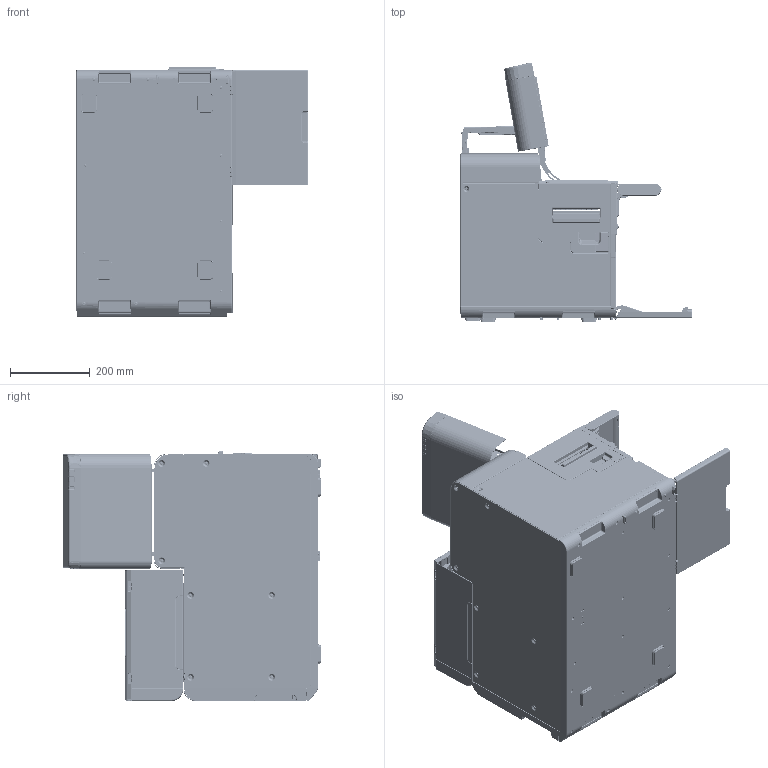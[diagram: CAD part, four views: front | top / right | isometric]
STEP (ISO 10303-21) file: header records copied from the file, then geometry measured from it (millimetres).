
FILE_DESCRIPTION((''),'2;1');
FILE_NAME('DEL-CW-C8000_OPEN_250131','2025-01-31T16:04:19',('5011256'),(''),'CREO PARAMETRIC BY PTC INC, 2021184','CREO PARAMETRIC BY PTC INC, 2021184','');
FILE_SCHEMA(('AUTOMOTIVE_DESIGN { 1 0 10303 214 1 1 1 1 }'));
Products named in the file (1): DEL-CW-C8000_OPEN_250131
Bounding box: 579.01 x 647.93 x 627.3 mm (x, y, z)
Surface area: 6440034.5 mm2 (no closed solid volume)
Topology: 0 solids, 1038 shells, 22624 faces, 86824 edges, 62776 vertices
Faces by surface type: plane 11845, cylinder 7552, torus 1022, cone 907, bspline 848, sphere 429, extrusion 21
Entity records: 1458327 total; most frequent: CARTESIAN_POINT 760953, ORIENTED_EDGE 138381, DIRECTION 132476, EDGE_CURVE 86510, VERTEX_POINT 62776, VECTOR 50898, LINE 50877, AXIS2_PLACEMENT_3D 40789
